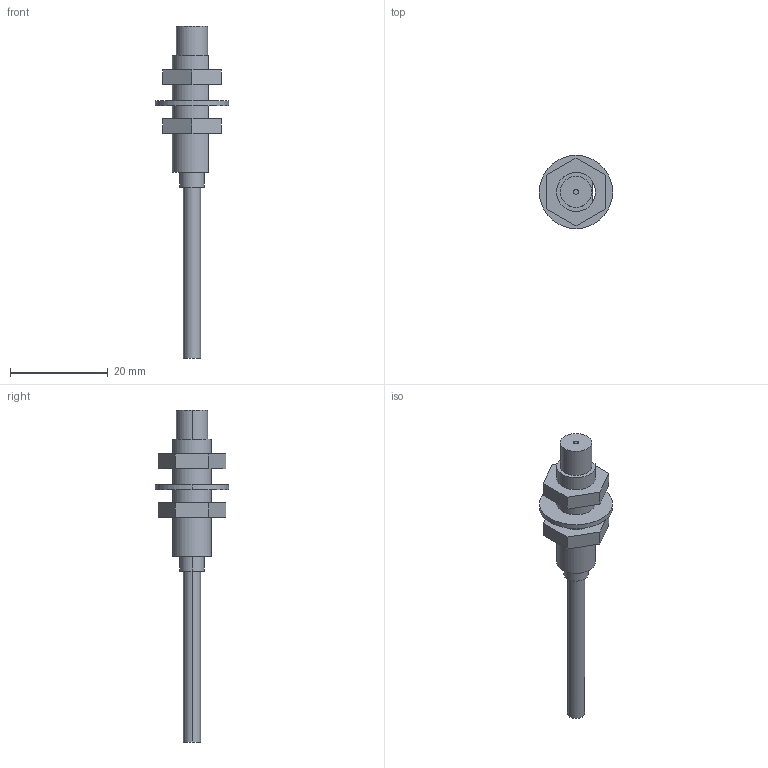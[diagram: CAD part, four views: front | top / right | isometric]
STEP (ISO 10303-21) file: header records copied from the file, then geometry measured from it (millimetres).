
FILE_DESCRIPTION (( 'STEP AP203' ), '1' );
FILE_NAME ('GX-8ML.STEP', '2005-09-07T01:20:05', ( '' ), ( '' ), 'SwSTEP 2.0', 'SolidWorks 2004073', '' );
FILE_SCHEMA (( 'CONFIG_CONTROL_DESIGN' ));
Length unit declared in the file: millimetre
Products named in the file (1): GX-8ML
Bounding box: 15 x 15 x 68 mm (x, y, z)
Volume: 2325.8 mm3; surface area: 2272.1 mm2
Topology: 4 solids, 4 shells, 46 faces, 102 edges, 68 vertices
Faces by surface type: plane 28, cylinder 18
Entity records: 1365 total; most frequent: DIRECTION 232, CARTESIAN_POINT 217, ORIENTED_EDGE 204, EDGE_CURVE 102, AXIS2_PLACEMENT_3D 83, VERTEX_POINT 68, VECTOR 66, LINE 66
